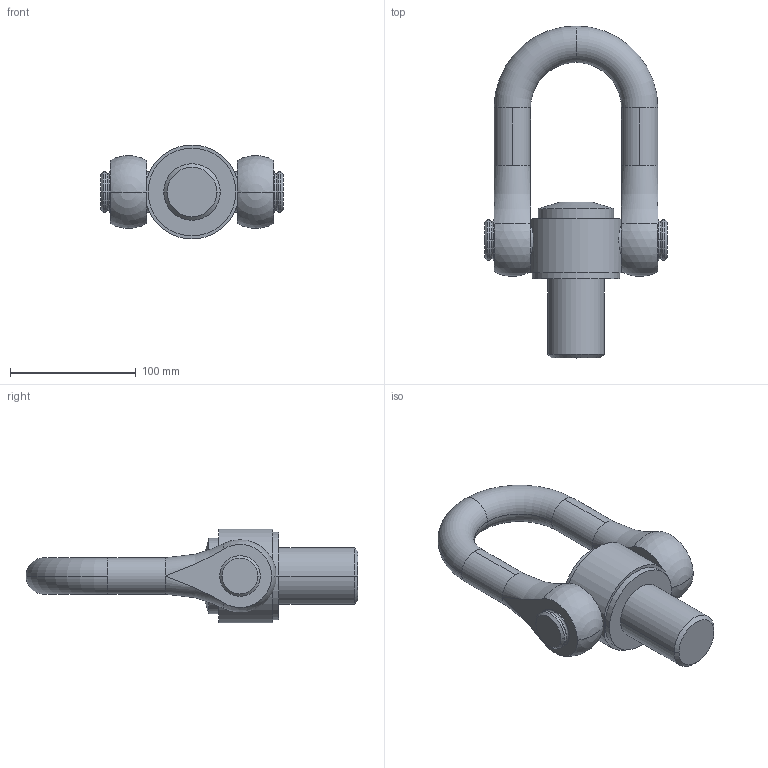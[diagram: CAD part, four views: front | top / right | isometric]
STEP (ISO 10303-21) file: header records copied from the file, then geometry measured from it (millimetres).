
FILE_DESCRIPTION( ( '' ), '1' );
FILE_NAME( 'c:/Temp/codipro/codipro_ss.dss_m45_90', '2011-05-12T08:16:16', ( '' ), ( '' ), ' ', ' ', ' ' );
FILE_SCHEMA( ( 'automotive_design' ) );
Length unit declared in the file: millimetre
Products named in the file (2): 1; 2
Bounding box: 145.5 x 264.5 x 74.72 mm (x, y, z)
Volume: 707828.9 mm3; surface area: 87899.7 mm2
Topology: 2 solids, 2 shells, 74 faces, 186 edges, 116 vertices
Faces by surface type: cylinder 24, plane 22, torus 16, cone 8, sphere 4
Entity records: 4545 total; most frequent: CARTESIAN_POINT 578, DIRECTION 432, STYLED_ITEM 374, PRESENTATION_STYLE_ASSIGNMENT 374, COLOUR_RGB 374, ORIENTED_EDGE 364, AXIS2_PLACEMENT_3D 186, EDGE_CURVE 182
